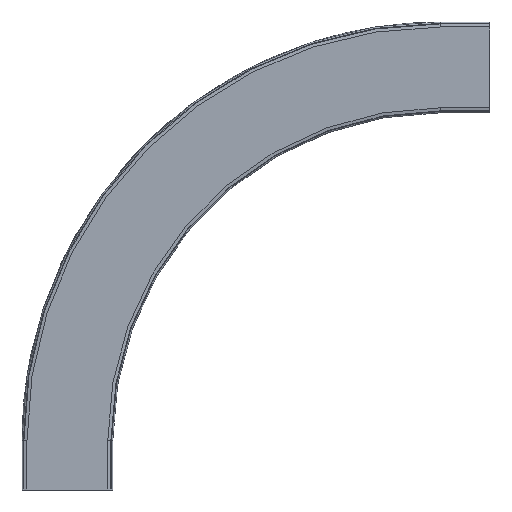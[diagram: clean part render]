
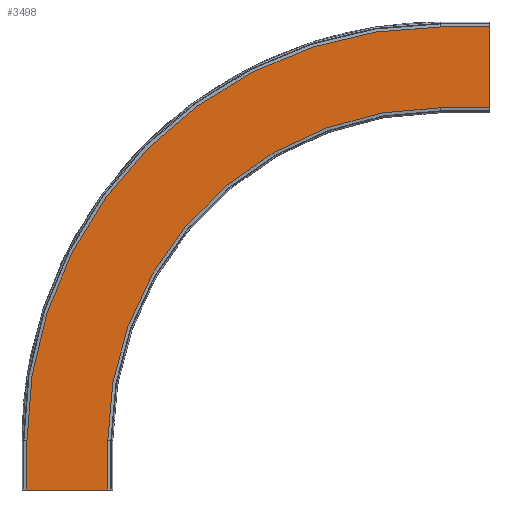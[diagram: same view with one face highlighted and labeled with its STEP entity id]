
A CAD part, front view. The second image highlights one B-rep face of the part: STEP entity #3498.
In plain terms, the highlighted planar face has unit normal (0, -1, 0).
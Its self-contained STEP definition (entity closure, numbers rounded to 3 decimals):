
#163=CIRCLE('',#3712,535.);
#164=CIRCLE('',#3714,665.);
#326=FACE_OUTER_BOUND('',#513,.T.);
#513=EDGE_LOOP('',(#2343,#2344,#2345,#2346,#2347,#2348,#2349,#2350));
#715=LINE('',#4874,#1077);
#719=LINE('',#4881,#1081);
#730=LINE('',#4914,#1092);
#731=LINE('',#4916,#1093);
#732=LINE('',#4917,#1094);
#733=LINE('',#4918,#1095);
#1077=VECTOR('',#3976,10.);
#1081=VECTOR('',#3982,10.);
#1092=VECTOR('',#4013,10.);
#1093=VECTOR('',#4014,10.);
#1094=VECTOR('',#4015,10.);
#1095=VECTOR('',#4016,10.);
#1439=VERTEX_POINT('',#4871);
#1440=VERTEX_POINT('',#4873);
#1442=VERTEX_POINT('',#4879);
#1451=VERTEX_POINT('',#4905);
#1452=VERTEX_POINT('',#4907);
#1453=VERTEX_POINT('',#4911);
#1454=VERTEX_POINT('',#4913);
#1455=VERTEX_POINT('',#4915);
#1787=EDGE_CURVE('',#1440,#1439,#715,.T.);
#1791=EDGE_CURVE('',#1442,#1439,#719,.T.);
#1804=EDGE_CURVE('',#1452,#1451,#163,.T.);
#1806=EDGE_CURVE('',#1453,#1442,#164,.T.);
#1807=EDGE_CURVE('',#1454,#1453,#730,.T.);
#1808=EDGE_CURVE('',#1454,#1455,#731,.T.);
#1809=EDGE_CURVE('',#1455,#1452,#732,.T.);
#1810=EDGE_CURVE('',#1451,#1440,#733,.T.);
#2343=ORIENTED_EDGE('',*,*,#1787,.T.);
#2344=ORIENTED_EDGE('',*,*,#1791,.F.);
#2345=ORIENTED_EDGE('',*,*,#1806,.F.);
#2346=ORIENTED_EDGE('',*,*,#1807,.F.);
#2347=ORIENTED_EDGE('',*,*,#1808,.T.);
#2348=ORIENTED_EDGE('',*,*,#1809,.T.);
#2349=ORIENTED_EDGE('',*,*,#1804,.T.);
#2350=ORIENTED_EDGE('',*,*,#1810,.T.);
#3377=PLANE('',#3713);
#3498=ADVANCED_FACE('',(#326),#3377,.T.);
#3712=AXIS2_PLACEMENT_3D('',#4908,#4006,#4007);
#3713=AXIS2_PLACEMENT_3D('',#4910,#4009,#4010);
#3714=AXIS2_PLACEMENT_3D('',#4912,#4011,#4012);
#3976=DIRECTION('',(0.,0.,1.));
#3982=DIRECTION('',(1.,0.,0.));
#4006=DIRECTION('center_axis',(0.,1.,0.));
#4007=DIRECTION('ref_axis',(-1.,0.,0.));
#4009=DIRECTION('center_axis',(0.,-1.,0.));
#4010=DIRECTION('ref_axis',(-1.,0.,0.));
#4011=DIRECTION('center_axis',(0.,1.,0.));
#4012=DIRECTION('ref_axis',(-1.,0.,0.));
#4013=DIRECTION('',(0.,0.,1.));
#4014=DIRECTION('',(1.,0.,0.));
#4015=DIRECTION('',(0.,0.,1.));
#4016=DIRECTION('',(1.,0.,0.));
#4871=CARTESIAN_POINT('',(719.001,-72.,745.));
#4873=CARTESIAN_POINT('',(719.001,-72.,615.));
#4874=CARTESIAN_POINT('',(719.001,-72.,649.));
#4879=CARTESIAN_POINT('',(639.001,-72.,745.));
#4881=CARTESIAN_POINT('',(-383.477,-72.,745.));
#4905=CARTESIAN_POINT('',(639.001,-72.,615.));
#4907=CARTESIAN_POINT('',(104.001,-72.,80.));
#4908=CARTESIAN_POINT('Origin',(639.001,-72.,80.));
#4910=CARTESIAN_POINT('Origin',(-383.477,-72.,615.));
#4911=CARTESIAN_POINT('',(-25.999,-72.,80.));
#4912=CARTESIAN_POINT('Origin',(639.001,-72.,80.));
#4913=CARTESIAN_POINT('',(-25.999,-72.,0.));
#4914=CARTESIAN_POINT('',(-25.999,-72.,0.));
#4915=CARTESIAN_POINT('',(104.001,-72.,0.));
#4916=CARTESIAN_POINT('',(-25.999,-72.,0.));
#4917=CARTESIAN_POINT('',(104.001,-72.,0.));
#4918=CARTESIAN_POINT('',(-383.477,-72.,615.));
